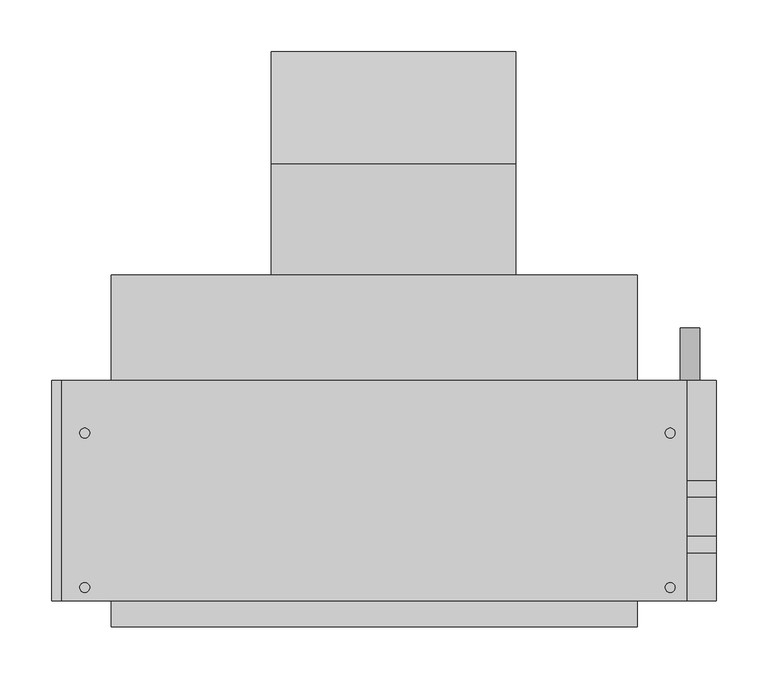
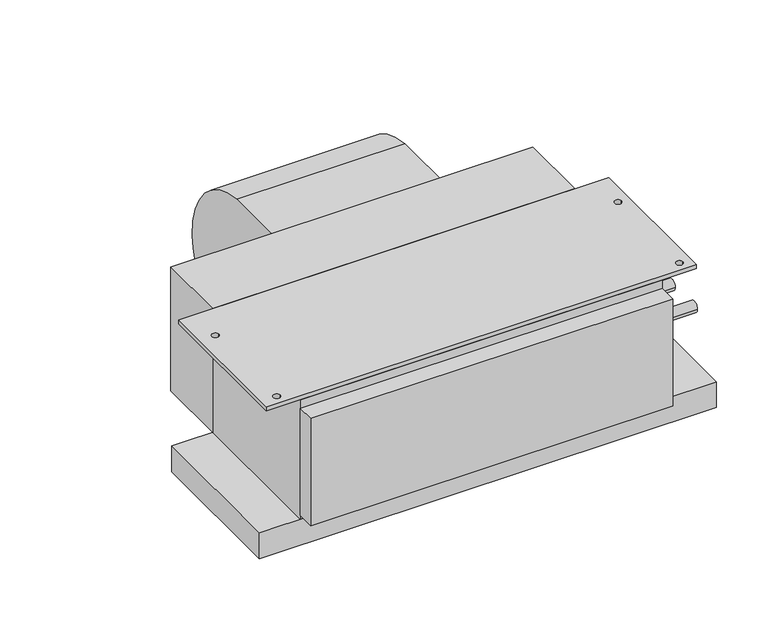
"""IFC4 building model written with IfcOpenShell, lengths in millimetres: proxy geometry, Concealed_Horizontal_Fan_Coil_Unit_-_42CAA_-_CARRIER_-_2-Pipe_Cool-EHeat_RH_2022 : Size 03 - 277v/60Hz/1Ph - 4 Row 3.0kW."""

from ifc_helpers import new_model, si_unit, point, frame, frame_2d, origin, place, context, project, spatial, polyline, circle_curve, trimmed, segment, composite_curve, outline, extrude, source, transform, mapped, element, save


def mechanical_equipment_7fdcf23d(model_context):
    return source(origin(), model_context, "Body", "SweptSolid", [
        extrude(outline(composite_curve([segment(trimmed(circle_curve(frame_2d((68.401169, -136.0299844)), 117.3559541), [point((77.7875, -19.05))], [point((185.7375, -138.176))], False, "CARTESIAN"), True, "CONTINUOUS"), segment(trimmed(circle_curve(frame_2d((90.0022663, -136.4250563)), 95.7512443), [point((185.7375, -138.176))], [point((77.7875, -231.394))], False, "CARTESIAN"), True, "CONTINUOUS"), segment(trimmed(circle_curve(frame_2d((89.9711869, -136.6666968)), 95.5076133), [point((77.7875, -231.394))], [point((-5.5245, -138.176))], False, "CARTESIAN"), True, "CONTINUOUS"), segment(trimmed(circle_curve(frame_2d((-24.6059828, -138.4775816)), 19.0838659), [point((-5.5245, -138.176))], [point((-17.7963373, -120.65))], True, "CARTESIAN"), True, "CONTINUOUS"), segment(polyline([(-17.7963373, -120.65), (-30.1625, -120.65), (-30.1625, -19.05), (77.7875, -19.05)]), True, "CONTINUOUS")], self_intersect=False)), frame((53.213, 0.0, 0.0), z_axis=(1.0, 0.0, 0.0), x_axis=(0.0, 1.0, 0.0)), (0.0, 0.0, 1.0), 235.712),
        extrude(outline(polyline([(454.025, -131.7625), (454.025, -344.4875), (-149.225, -344.4875), (-149.225, -131.7625), (454.025, -131.7625)]), holes=[composite_curve([segment(trimmed(circle_curve(frame_2d((-127.0, -182.5625)), 4.7625), [point((-131.7625, -182.5625))], [point((-122.2375, -182.5625))], True, "CARTESIAN"), True, "CONTINUOUS"), segment(trimmed(circle_curve(frame_2d((-127.0, -182.5625)), 4.7625), [point((-122.2375, -182.5625))], [point((-131.7625, -182.5625))], True, "CARTESIAN"), True, "CONTINUOUS")], self_intersect=False), composite_curve([segment(trimmed(circle_curve(frame_2d((-127.0, -331.7875)), 4.7625), [point((-131.7625, -331.7875))], [point((-122.2375, -331.7875))], True, "CARTESIAN"), True, "CONTINUOUS"), segment(trimmed(circle_curve(frame_2d((-127.0, -331.7875)), 4.7625), [point((-122.2375, -331.7875))], [point((-131.7625, -331.7875))], True, "CARTESIAN"), True, "CONTINUOUS")], self_intersect=False), composite_curve([segment(trimmed(circle_curve(frame_2d((438.15, -182.5625)), 4.7625), [point((433.3875, -182.5625))], [point((442.9125, -182.5625))], True, "CARTESIAN"), True, "CONTINUOUS"), segment(trimmed(circle_curve(frame_2d((438.15, -182.5625)), 4.7625), [point((442.9125, -182.5625))], [point((433.3875, -182.5625))], True, "CARTESIAN"), True, "CONTINUOUS")], self_intersect=False), composite_curve([segment(trimmed(circle_curve(frame_2d((438.15, -331.7875)), 4.7625), [point((433.3875, -331.7875))], [point((442.9125, -331.7875))], True, "CARTESIAN"), True, "CONTINUOUS"), segment(trimmed(circle_curve(frame_2d((438.15, -331.7875)), 4.7625), [point((442.9125, -331.7875))], [point((433.3875, -331.7875))], True, "CARTESIAN"), True, "CONTINUOUS")], self_intersect=False)]), frame((0.0, 0.0, -6.35), z_axis=(0.0, 0.0, 1.0), x_axis=(1.0, 0.0, 0.0)), (0.0, 0.0, 1.0), 6.35),
        extrude(outline(polyline([(-101.6, -30.1625), (406.4, -30.1625), (406.4, -131.7625), (-101.6, -131.7625), (-101.6, -30.1625)])), frame((0.0, 0.0, -184.15), z_axis=(0.0, 0.0, 1.0), x_axis=(1.0, 0.0, 0.0)), (0.0, 0.0, 1.0), 184.15),
        extrude(outline(composite_curve([segment(trimmed(circle_curve(frame_2d((-209.55, 457.2)), 9.525), [point((-209.55, 447.675))], [point((-209.55, 466.725))], False, "CARTESIAN"), True, "CONTINUOUS"), segment(trimmed(circle_curve(frame_2d((-209.55, 457.2)), 9.525), [point((-209.55, 466.725))], [point((-209.55, 447.675))], False, "CARTESIAN"), True, "CONTINUOUS")], self_intersect=False)), frame((0.0, -131.7625, 0.0), z_axis=(0.0, 1.0, 0.0), x_axis=(0.0, 0.0, 1.0)), (0.0, 0.0, 1.0), 50.8),
        extrude(outline(polyline([(406.4, -369.8875), (-101.6, -369.8875), (-101.6, -344.4875), (406.4, -344.4875), (406.4, -369.8875)])), frame((0.0, 0.0, -177.8), z_axis=(0.0, 0.0, 1.0), x_axis=(1.0, 0.0, 0.0)), (0.0, 0.0, 1.0), 158.75),
        extrude(outline(polyline([(482.6, -131.7625), (482.6, -344.4875), (-158.75, -344.4875), (-158.75, -131.7625), (482.6, -131.7625)])), frame((0.0, 0.0, -222.25), z_axis=(0.0, 0.0, 1.0), x_axis=(1.0, 0.0, 0.0)), (0.0, 0.0, 1.0), 38.1),
        extrude(outline(composite_curve([segment(trimmed(circle_curve(frame_2d((-290.5125, -104.775)), 7.9375), [point((-298.45, -104.775))], [point((-282.575, -104.775))], False, "CARTESIAN"), True, "CONTINUOUS"), segment(trimmed(circle_curve(frame_2d((-290.5125, -104.775)), 7.9375), [point((-282.575, -104.775))], [point((-298.45, -104.775))], False, "CARTESIAN"), True, "CONTINUOUS")], self_intersect=False)), frame((406.4, 0.0, 0.0), z_axis=(1.0, 0.0, 0.0), x_axis=(0.0, 1.0, 0.0)), (0.0, 0.0, 1.0), 76.2),
        extrude(outline(composite_curve([segment(trimmed(circle_curve(frame_2d((-236.5375, -104.775)), 7.9375), [point((-244.475, -104.775))], [point((-228.6, -104.775))], False, "CARTESIAN"), True, "CONTINUOUS"), segment(trimmed(circle_curve(frame_2d((-236.5375, -104.775)), 7.9375), [point((-228.6, -104.775))], [point((-244.475, -104.775))], False, "CARTESIAN"), True, "CONTINUOUS")], self_intersect=False)), frame((406.4, 0.0, 0.0), z_axis=(1.0, 0.0, 0.0), x_axis=(0.0, 1.0, 0.0)), (0.0, 0.0, 1.0), 76.2),
        extrude(outline(polyline([(406.4, -344.4875), (-101.6, -344.4875), (-101.6, -131.7625), (406.4, -131.7625), (406.4, -344.4875)])), frame((0.0, 0.0, -184.15), z_axis=(0.0, 0.0, 1.0), x_axis=(1.0, 0.0, 0.0)), (0.0, 0.0, 1.0), 177.8),
    ])


if __name__ == "__main__":
    model = new_model("IFC4")
    model_context = context("Model", 3, world=origin())
    ifc_project = project(units=[si_unit("LENGTHUNIT", "METRE", prefix="MILLI")], contexts=[model_context])
    site = spatial("IfcSite", under=ifc_project)
    building = spatial("IfcBuilding", under=site)
    placement = place(None, origin())
    mechanical_equipment_shape = mechanical_equipment_7fdcf23d(model_context)
    element("IfcBuildingElementProxy", 1, Name="Concealed_Horizontal_Fan_Coil_Unit_-_42CAA_-_CARRIER_-_2-Pipe_Cool-EHeat_RH_2022 : Size 03 - 277v/60Hz/1Ph - 4 Row 3.0kW", ObjectType="Concealed_Horizontal_Fan_Coil_Unit_-_42CAA_-_CARRIER_-_2-Pipe_Cool-EHeat_RH_2022 : Size 03 - 277v/60Hz/1Ph - 4 Row 3.0kW", at=placement, inside=building, context=model_context, shape_type="MappedRepresentation", body=[
        mapped(mechanical_equipment_shape, transform((0.0, 0.0, 0.0), x_axis=(1.0, 0.0, 0.0), y_axis=(0.0, 1.0, 0.0), z_axis=(0.0, 0.0, 1.0))),
    ])
    save(model, "model.ifc")
